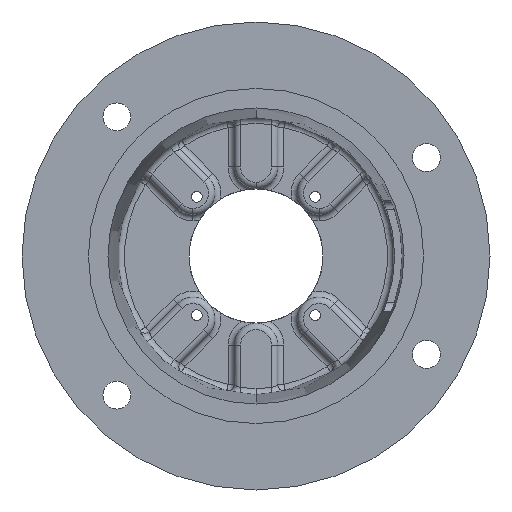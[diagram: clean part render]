
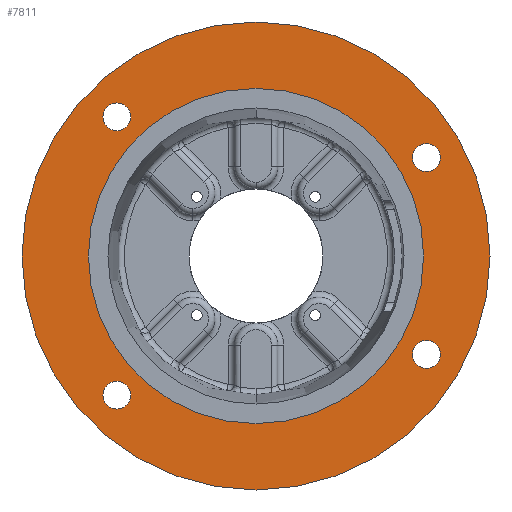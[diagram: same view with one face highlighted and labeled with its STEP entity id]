
A CAD part, front view. The second image highlights one B-rep face of the part: STEP entity #7811.
In plain terms, the highlighted planar face has unit normal (0, -1, 0).
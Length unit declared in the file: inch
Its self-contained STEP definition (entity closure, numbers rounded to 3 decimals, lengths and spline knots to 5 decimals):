
#202 = FACE_BOUND ( 'NONE', #6068, .T. ) ;
#213 = CARTESIAN_POINT ( 'NONE',  ( 4.00537, 0., -1.98438 ) ) ;
#248 = VERTEX_POINT ( 'NONE', #9717 ) ;
#462 = EDGE_CURVE ( 'NONE', #248, #12018, #7205, .T. ) ;
#694 = DIRECTION ( 'NONE',  ( 0., 0., -1. ) ) ;
#861 = CARTESIAN_POINT ( 'NONE',  ( 4.00537, 0., 2.3125 ) ) ;
#939 = CIRCLE ( 'NONE', #7295, 0.32812 ) ;
#994 = CIRCLE ( 'NONE', #5526, 5.5 ) ;
#1007 = DIRECTION ( 'NONE',  ( 0., -1., 0. ) ) ;
#1210 = DIRECTION ( 'NONE',  ( 0., -1., 0. ) ) ;
#1327 = CARTESIAN_POINT ( 'NONE',  ( 0., 0., -3.9385 ) ) ;
#1717 = CARTESIAN_POINT ( 'NONE',  ( 0., 0., 0. ) ) ;
#1728 = DIRECTION ( 'NONE',  ( 0., -1., 0. ) ) ;
#1947 = VERTEX_POINT ( 'NONE', #11200 ) ;
#1949 = DIRECTION ( 'NONE',  ( 0., 0., -1. ) ) ;
#1971 = CIRCLE ( 'NONE', #10220, 0.32812 ) ;
#2176 = CIRCLE ( 'NONE', #6750, 0.32812 ) ;
#2377 = FACE_OUTER_BOUND ( 'NONE', #12901, .T. ) ;
#2425 = DIRECTION ( 'NONE',  ( 0., 1., 0. ) ) ;
#2447 = CARTESIAN_POINT ( 'NONE',  ( 4.00537, 0., -2.64063 ) ) ;
#2533 = EDGE_CURVE ( 'NONE', #13045, #4063, #2176, .T. ) ;
#2882 = CIRCLE ( 'NONE', #8329, 0.32812 ) ;
#2952 = DIRECTION ( 'NONE',  ( 0., 0., -1. ) ) ;
#2963 = DIRECTION ( 'NONE',  ( 0., -1., 0. ) ) ;
#2989 = CARTESIAN_POINT ( 'NONE',  ( -3.27037, 0., -3.27037 ) ) ;
#3039 = EDGE_CURVE ( 'NONE', #8502, #11858, #994, .T. ) ;
#3150 = CARTESIAN_POINT ( 'NONE',  ( -3.27037, 0., -2.94224 ) ) ;
#3188 = AXIS2_PLACEMENT_3D ( 'NONE', #1717, #1728, #4341 ) ;
#3269 = CARTESIAN_POINT ( 'NONE',  ( 0., 0., 5.5 ) ) ;
#3293 = EDGE_CURVE ( 'NONE', #11858, #8502, #7683, .T. ) ;
#3673 = CIRCLE ( 'NONE', #9557, 0.32812 ) ;
#3812 = VERTEX_POINT ( 'NONE', #3150 ) ;
#4063 = VERTEX_POINT ( 'NONE', #213 ) ;
#4217 = ORIENTED_EDGE ( 'NONE', *, *, #3293, .T. ) ;
#4341 = DIRECTION ( 'NONE',  ( 0., 0., -1. ) ) ;
#4370 = DIRECTION ( 'NONE',  ( 0., -1., 0. ) ) ;
#4412 = PLANE ( 'NONE',  #12275 ) ;
#4724 = DIRECTION ( 'NONE',  ( 0., -1., 0. ) ) ;
#4788 = EDGE_CURVE ( 'NONE', #10250, #3812, #1971, .T. ) ;
#5019 = CIRCLE ( 'NONE', #9540, 3.9385 ) ;
#5020 = ORIENTED_EDGE ( 'NONE', *, *, #2533, .F. ) ;
#5060 = VERTEX_POINT ( 'NONE', #9255 ) ;
#5127 = FACE_BOUND ( 'NONE', #6887, .T. ) ;
#5460 = FACE_BOUND ( 'NONE', #12255, .T. ) ;
#5526 = AXIS2_PLACEMENT_3D ( 'NONE', #9107, #9103, #9094 ) ;
#5541 = CARTESIAN_POINT ( 'NONE',  ( 4.00537, 0., 2.3125 ) ) ;
#5605 = EDGE_CURVE ( 'NONE', #7985, #1947, #939, .T. ) ;
#5785 = CIRCLE ( 'NONE', #6000, 0.32812 ) ;
#5812 = CIRCLE ( 'NONE', #9391, 3.9385 ) ;
#6000 = AXIS2_PLACEMENT_3D ( 'NONE', #10563, #4370, #11626 ) ;
#6005 = DIRECTION ( 'NONE',  ( 0., -1., 0. ) ) ;
#6068 = EDGE_LOOP ( 'NONE', ( #8215, #12591 ) ) ;
#6223 = ORIENTED_EDGE ( 'NONE', *, *, #7492, .F. ) ;
#6599 = DIRECTION ( 'NONE',  ( 0., 0., -1. ) ) ;
#6750 = AXIS2_PLACEMENT_3D ( 'NONE', #9471, #9468, #9449 ) ;
#6887 = EDGE_LOOP ( 'NONE', ( #5020, #11405 ) ) ;
#6943 = EDGE_LOOP ( 'NONE', ( #11483, #10946 ) ) ;
#6961 = DIRECTION ( 'NONE',  ( 0., -1., 0. ) ) ;
#7004 = EDGE_CURVE ( 'NONE', #5060, #13432, #5019, .T. ) ;
#7205 = CIRCLE ( 'NONE', #12295, 0.32812 ) ;
#7253 = CARTESIAN_POINT ( 'NONE',  ( 0., 0., 0. ) ) ;
#7295 = AXIS2_PLACEMENT_3D ( 'NONE', #5541, #12815, #6599 ) ;
#7329 = ORIENTED_EDGE ( 'NONE', *, *, #4788, .F. ) ;
#7445 = CARTESIAN_POINT ( 'NONE',  ( -3.27037, 0., -3.27037 ) ) ;
#7492 = EDGE_CURVE ( 'NONE', #1947, #7985, #2882, .T. ) ;
#7582 = AXIS2_PLACEMENT_3D ( 'NONE', #7445, #1210, #8472 ) ;
#7683 = CIRCLE ( 'NONE', #3188, 5.5 ) ;
#7765 = EDGE_CURVE ( 'NONE', #12018, #248, #5785, .T. ) ;
#7781 = CIRCLE ( 'NONE', #7582, 0.32812 ) ;
#7811 = ADVANCED_FACE ( 'NONE', ( #5460, #5127, #10634, #202, #13389, #2377 ), #4412, .F. ) ;
#7932 = CARTESIAN_POINT ( 'NONE',  ( 0., 0., -5.5 ) ) ;
#7985 = VERTEX_POINT ( 'NONE', #12994 ) ;
#8044 = DIRECTION ( 'NONE',  ( 0., 0., -1. ) ) ;
#8084 = CARTESIAN_POINT ( 'NONE',  ( -3.27037, 0., 3.27037 ) ) ;
#8152 = DIRECTION ( 'NONE',  ( 0., -1., 0. ) ) ;
#8215 = ORIENTED_EDGE ( 'NONE', *, *, #7765, .F. ) ;
#8286 = DIRECTION ( 'NONE',  ( 0., 0., -1. ) ) ;
#8329 = AXIS2_PLACEMENT_3D ( 'NONE', #861, #8152, #1949 ) ;
#8472 = DIRECTION ( 'NONE',  ( 0., 0., -1. ) ) ;
#8502 = VERTEX_POINT ( 'NONE', #7932 ) ;
#8616 = CARTESIAN_POINT ( 'NONE',  ( -5.5, 0., 0. ) ) ;
#9094 = DIRECTION ( 'NONE',  ( 0., 0., -1. ) ) ;
#9103 = DIRECTION ( 'NONE',  ( 0., -1., 0. ) ) ;
#9107 = CARTESIAN_POINT ( 'NONE',  ( 0., 0., 0. ) ) ;
#9255 = CARTESIAN_POINT ( 'NONE',  ( 0., 0., 3.9385 ) ) ;
#9266 = EDGE_CURVE ( 'NONE', #4063, #13045, #3673, .T. ) ;
#9391 = AXIS2_PLACEMENT_3D ( 'NONE', #7253, #1007, #8286 ) ;
#9449 = DIRECTION ( 'NONE',  ( 0., 0., -1. ) ) ;
#9468 = DIRECTION ( 'NONE',  ( 0., -1., 0. ) ) ;
#9471 = CARTESIAN_POINT ( 'NONE',  ( 4.00537, 0., -2.3125 ) ) ;
#9540 = AXIS2_PLACEMENT_3D ( 'NONE', #13155, #6961, #694 ) ;
#9557 = AXIS2_PLACEMENT_3D ( 'NONE', #10929, #4724, #12003 ) ;
#9655 = DIRECTION ( 'NONE',  ( 0., 0., 1. ) ) ;
#9717 = CARTESIAN_POINT ( 'NONE',  ( -3.27037, 0., 3.59849 ) ) ;
#10220 = AXIS2_PLACEMENT_3D ( 'NONE', #2989, #2963, #2952 ) ;
#10250 = VERTEX_POINT ( 'NONE', #11302 ) ;
#10408 = EDGE_CURVE ( 'NONE', #3812, #10250, #7781, .T. ) ;
#10563 = CARTESIAN_POINT ( 'NONE',  ( -3.27037, 0., 3.27037 ) ) ;
#10634 = FACE_BOUND ( 'NONE', #11641, .T. ) ;
#10702 = EDGE_CURVE ( 'NONE', #13432, #5060, #5812, .T. ) ;
#10929 = CARTESIAN_POINT ( 'NONE',  ( 4.00537, 0., -2.3125 ) ) ;
#10946 = ORIENTED_EDGE ( 'NONE', *, *, #7004, .F. ) ;
#11200 = CARTESIAN_POINT ( 'NONE',  ( 4.00537, 0., 2.64062 ) ) ;
#11302 = CARTESIAN_POINT ( 'NONE',  ( -3.27037, 0., -3.59849 ) ) ;
#11405 = ORIENTED_EDGE ( 'NONE', *, *, #9266, .F. ) ;
#11483 = ORIENTED_EDGE ( 'NONE', *, *, #10702, .F. ) ;
#11626 = DIRECTION ( 'NONE',  ( 0., 0., -1. ) ) ;
#11641 = EDGE_LOOP ( 'NONE', ( #7329, #13443 ) ) ;
#11858 = VERTEX_POINT ( 'NONE', #3269 ) ;
#12003 = DIRECTION ( 'NONE',  ( 0., 0., -1. ) ) ;
#12018 = VERTEX_POINT ( 'NONE', #12029 ) ;
#12029 = CARTESIAN_POINT ( 'NONE',  ( -3.27037, 0., 2.94224 ) ) ;
#12255 = EDGE_LOOP ( 'NONE', ( #13260, #6223 ) ) ;
#12275 = AXIS2_PLACEMENT_3D ( 'NONE', #8616, #2425, #9655 ) ;
#12295 = AXIS2_PLACEMENT_3D ( 'NONE', #8084, #6005, #8044 ) ;
#12591 = ORIENTED_EDGE ( 'NONE', *, *, #462, .F. ) ;
#12815 = DIRECTION ( 'NONE',  ( 0., -1., 0. ) ) ;
#12901 = EDGE_LOOP ( 'NONE', ( #13183, #4217 ) ) ;
#12994 = CARTESIAN_POINT ( 'NONE',  ( 4.00537, 0., 1.98437 ) ) ;
#13045 = VERTEX_POINT ( 'NONE', #2447 ) ;
#13155 = CARTESIAN_POINT ( 'NONE',  ( 0., 0., 0. ) ) ;
#13183 = ORIENTED_EDGE ( 'NONE', *, *, #3039, .T. ) ;
#13260 = ORIENTED_EDGE ( 'NONE', *, *, #5605, .F. ) ;
#13389 = FACE_BOUND ( 'NONE', #6943, .T. ) ;
#13432 = VERTEX_POINT ( 'NONE', #1327 ) ;
#13443 = ORIENTED_EDGE ( 'NONE', *, *, #10408, .F. ) ;
